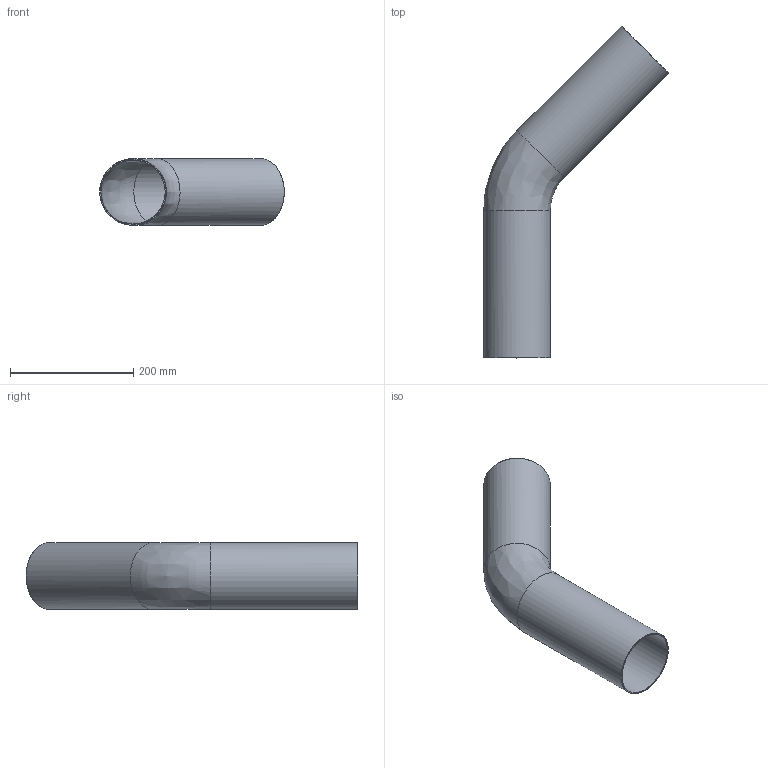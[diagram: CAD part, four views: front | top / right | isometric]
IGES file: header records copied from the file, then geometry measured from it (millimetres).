
Global section: file name: C73AM; native system: Autodesk Inventor 2023; preprocessor: unknown; author: lvalentini; date: 20230921.120731; units: millimetre
Bounding box: 299.25 x 538.28 x 108 mm (x, y, z)
Volume: 387479.2 mm3; surface area: 388258.9 mm2
Topology: 1 solids, 1 shells, 12 faces, 26 edges, 16 vertices
Faces by surface type: bspline 12
